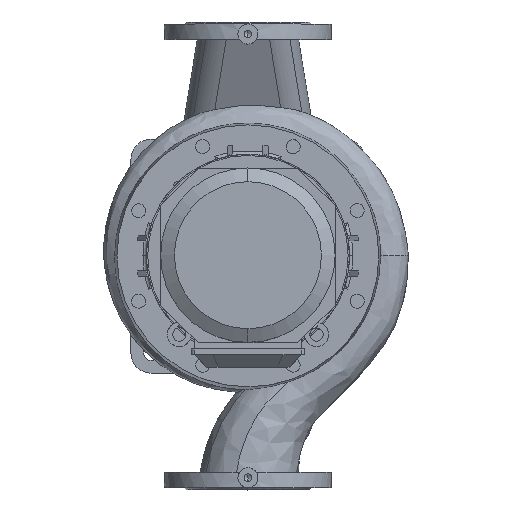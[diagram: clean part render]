
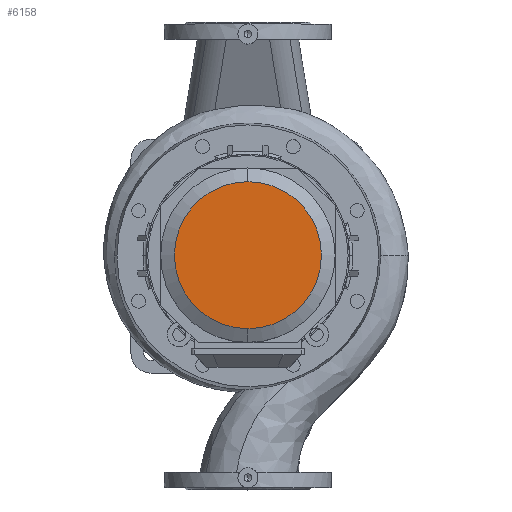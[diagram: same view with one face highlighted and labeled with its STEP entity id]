
A CAD part, top view. The second image highlights one B-rep face of the part: STEP entity #6158.
In plain terms, the highlighted planar face has unit normal (0, 0, 1) as drawn and (0, 1, 0) by its records, which use the part's own axes.
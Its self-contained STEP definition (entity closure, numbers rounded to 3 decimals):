
#6158=ADVANCED_FACE('F159',(#12376),#12377,.T.);
#12376=FACE_OUTER_BOUND('',#17787,.T.);
#12377=PLANE('',#17788);
#17787=EDGE_LOOP('',(#19525,#19526));
#17788=AXIS2_PLACEMENT_3D('',#19527,#19528,#19529);
#19525=ORIENTED_EDGE('',*,*,#22149,.T.);
#19526=ORIENTED_EDGE('',*,*,#22075,.T.);
#19527=CARTESIAN_POINT('',(-121.0,166.0,-121.0));
#19528=DIRECTION('',(0.0,1.0,0.0));
#19529=DIRECTION('',(1.0,0.0,-0.0));
#22075=EDGE_CURVE('E447',#25524,#25522,#25525,.T.);
#22149=EDGE_CURVE('E447',#25522,#25524,#25646,.T.);
#25522=VERTEX_POINT('',#27286);
#25524=VERTEX_POINT('',#27289);
#25525=CIRCLE('',#27290,110.0);
#25646=CIRCLE('',#27470,110.0);
#27286=CARTESIAN_POINT('',(0.,166.0,-110.0));
#27289=CARTESIAN_POINT('',(0.,166.0,110.0));
#27290=AXIS2_PLACEMENT_3D('',#28551,#28552,#28553);
#27470=AXIS2_PLACEMENT_3D('',#28655,#28656,#28657);
#28551=CARTESIAN_POINT('',(0.0,166.0,0.0));
#28552=DIRECTION('',(0.0,1.0,0.0));
#28553=DIRECTION('',(0.0,0.0,1.0));
#28655=CARTESIAN_POINT('',(0.0,166.0,0.0));
#28656=DIRECTION('',(0.0,1.0,0.0));
#28657=DIRECTION('',(0.0,0.0,1.0));
